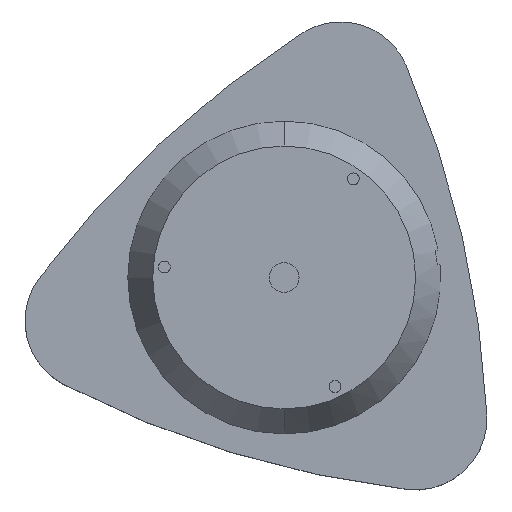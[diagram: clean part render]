
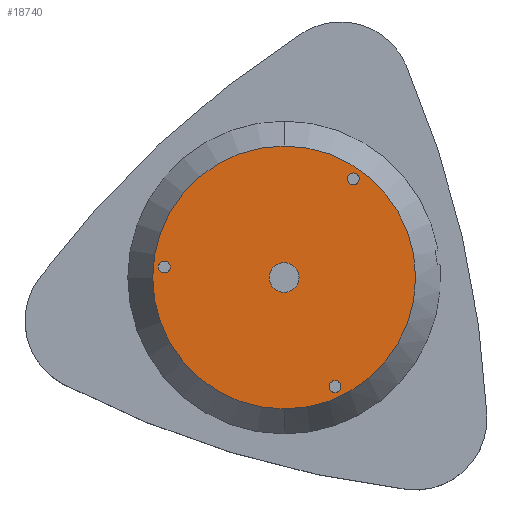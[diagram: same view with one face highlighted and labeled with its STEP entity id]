
A CAD part, top view. The second image highlights one B-rep face of the part: STEP entity #18740.
In plain terms, the highlighted planar face has unit normal (0, 0, 1).
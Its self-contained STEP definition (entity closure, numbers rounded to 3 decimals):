
#15270=CARTESIAN_POINT('',(0.,110.355,32.));
#15280=VERTEX_POINT('',#15270);
#17860=CARTESIAN_POINT('',(0.,-110.355,32.));
#17870=VERTEX_POINT('',#17860);
#17900=CARTESIAN_POINT('',(0.,0.,32.)
);
#17910=DIRECTION('',(0.,0.,-1.));
#17920=DIRECTION('',(0.,-1.,-0.));
#17930=AXIS2_PLACEMENT_3D('',#17900,#17910,#17920);
#17940=CIRCLE('',#17930,110.355);
#17950=EDGE_CURVE('',#15280,#17870,#17940,.T.);
#18000=CARTESIAN_POINT('',(0.,-61.427,32.));
#18010=DIRECTION('',(0.,-0.,1.));
#18020=DIRECTION('',(0.,-1.,-0.));
#18030=AXIS2_PLACEMENT_3D('',#18000,#18010,#18020);
#18040=PLANE('',#18030);
#18050=CARTESIAN_POINT('',(0.,0.,32.)
);
#18060=DIRECTION('',(0.,0.,-1.));
#18070=DIRECTION('',(0.,-1.,-0.));
#18080=AXIS2_PLACEMENT_3D('',#18050,#18060,#18070);
#18090=CIRCLE('',#18080,12.5);
#18100=CARTESIAN_POINT('',(-12.5,0.,32.));
#18110=VERTEX_POINT('',#18100);
#18120=CARTESIAN_POINT('',(12.5,0.,32.));
#18130=VERTEX_POINT('',#18120);
#18140=EDGE_CURVE('',#18110,#18130,#18090,.T.);
#18150=ORIENTED_EDGE('',*,*,#18140,.T.);
#18160=CARTESIAN_POINT('',(0.,-12.5,32.));
#18170=VERTEX_POINT('',#18160);
#18180=EDGE_CURVE('',#18170,#18110,#18090,.T.);
#18190=ORIENTED_EDGE('',*,*,#18180,.T.);
#18200=EDGE_CURVE('',#18130,#18170,#18090,.T.);
#18210=ORIENTED_EDGE('',*,*,#18200,.T.);
#18220=EDGE_LOOP('',(#18210,#18190,#18150));
#18230=FACE_BOUND('',#18220,.T.);
#18240=CARTESIAN_POINT('',(-100.616,8.803,32.));
#18250=DIRECTION('',(0.,0.,1.));
#18260=DIRECTION('',(-0.985,-0.174,0.));
#18270=AXIS2_PLACEMENT_3D('',#18240,#18250,#18260);
#18280=CIRCLE('',#18270,5.);
#18290=CARTESIAN_POINT('',(-105.54,7.934,32.));
#18300=VERTEX_POINT('',#18290);
#18310=CARTESIAN_POINT('',(-95.692,9.671,32.));
#18320=VERTEX_POINT('',#18310);
#18330=EDGE_CURVE('',#18300,#18320,#18280,.T.);
#18340=ORIENTED_EDGE('',*,*,#18330,.F.);
#18350=EDGE_CURVE('',#18320,#18300,#18280,.T.);
#18360=ORIENTED_EDGE('',*,*,#18350,.F.);
#18370=EDGE_LOOP('',(#18360,#18340));
#18380=FACE_BOUND('',#18370,.T.);
#18390=CARTESIAN_POINT('',(57.931,82.734,32.));
#18400=DIRECTION('',(0.,0.,1.));
#18410=DIRECTION('',(-0.985,-0.174,0.));
#18420=AXIS2_PLACEMENT_3D('',#18390,#18400,#18410);
#18430=CIRCLE('',#18420,5.);
#18440=CARTESIAN_POINT('',(53.007,81.866,32.));
#18450=VERTEX_POINT('',#18440);
#18460=CARTESIAN_POINT('',(62.855,83.603,32.));
#18470=VERTEX_POINT('',#18460);
#18480=EDGE_CURVE('',#18450,#18470,#18430,.T.);
#18490=ORIENTED_EDGE('',*,*,#18480,.F.);
#18500=EDGE_CURVE('',#18470,#18450,#18430,.T.);
#18510=ORIENTED_EDGE('',*,*,#18500,.F.);
#18520=EDGE_LOOP('',(#18510,#18490));
#18530=FACE_BOUND('',#18520,.T.);
#18540=CARTESIAN_POINT('',(42.684,-91.537,32.));
#18550=DIRECTION('',(0.,0.,1.));
#18560=DIRECTION('',(-0.503,-0.864,
0.));
#18570=AXIS2_PLACEMENT_3D('',#18540,#18550,#18560);
#18580=CIRCLE('',#18570,5.);
#18590=CARTESIAN_POINT('',(40.171,-95.859,32.));
#18600=VERTEX_POINT('',#18590);
#18610=CARTESIAN_POINT('',(45.198,-87.215,32.));
#18620=VERTEX_POINT('',#18610);
#18630=EDGE_CURVE('',#18600,#18620,#18580,.T.);
#18640=ORIENTED_EDGE('',*,*,#18630,.F.);
#18650=EDGE_CURVE('',#18620,#18600,#18580,.T.);
#18660=ORIENTED_EDGE('',*,*,#18650,.F.);
#18670=EDGE_LOOP('',(#18660,#18640));
#18680=FACE_BOUND('',#18670,.T.);
#18690=EDGE_CURVE('',#17870,#15280,#17940,.T.);
#18700=ORIENTED_EDGE('',*,*,#18690,.F.);
#18710=ORIENTED_EDGE('',*,*,#17950,.F.);
#18720=EDGE_LOOP('',(#18710,#18700));
#18730=FACE_OUTER_BOUND('',#18720,.T.);
#18740=ADVANCED_FACE('',(#18230,#18380,#18530,#18680,#18730),#18040,.T.)
;
